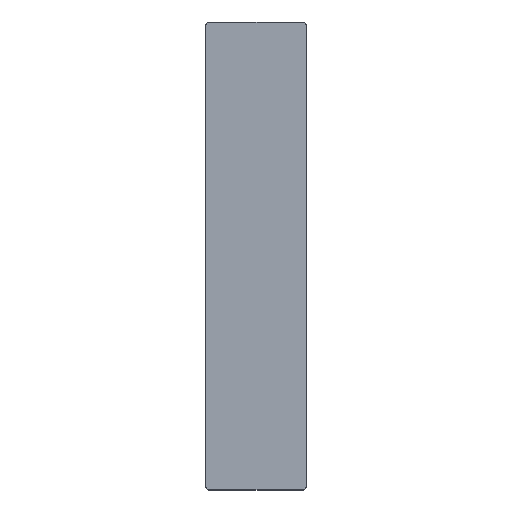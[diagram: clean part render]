
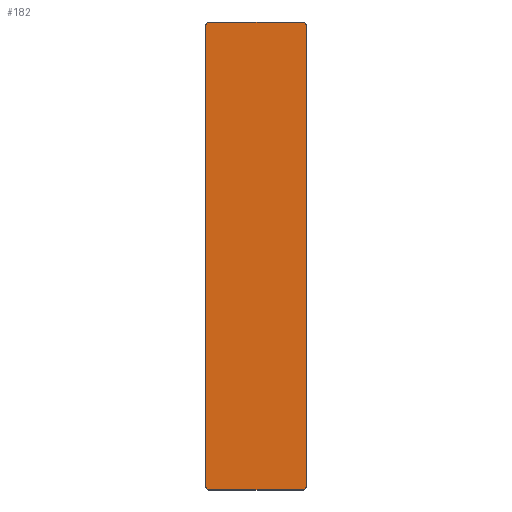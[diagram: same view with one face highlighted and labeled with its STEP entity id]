
A CAD part, top view. The second image highlights one B-rep face of the part: STEP entity #182.
In plain terms, the highlighted planar face has unit normal (0, 0, 1).
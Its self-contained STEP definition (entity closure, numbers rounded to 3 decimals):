
#15=CIRCLE('',#199,0.6);
#17=CIRCLE('',#203,0.6);
#19=CIRCLE('',#207,0.6);
#21=CIRCLE('',#211,0.6);
#36=FACE_OUTER_BOUND('',#46,.T.);
#46=EDGE_LOOP('',(#159,#160,#161,#162,#163,#164,#165,#166));
#48=LINE('',#275,#64);
#54=LINE('',#290,#70);
#58=LINE('',#302,#74);
#61=LINE('',#313,#77);
#64=VECTOR('',#220,1.);
#70=VECTOR('',#234,1.);
#74=VECTOR('',#246,1.);
#77=VECTOR('',#257,1.);
#80=VERTEX_POINT('',#272);
#81=VERTEX_POINT('',#274);
#84=VERTEX_POINT('',#281);
#86=VERTEX_POINT('',#288);
#88=VERTEX_POINT('',#293);
#90=VERTEX_POINT('',#300);
#92=VERTEX_POINT('',#305);
#94=VERTEX_POINT('',#311);
#96=EDGE_CURVE('',#80,#81,#48,.T.);
#100=EDGE_CURVE('',#84,#80,#15,.T.);
#104=EDGE_CURVE('',#84,#86,#54,.T.);
#106=EDGE_CURVE('',#88,#86,#17,.T.);
#110=EDGE_CURVE('',#88,#90,#58,.T.);
#112=EDGE_CURVE('',#92,#90,#19,.T.);
#115=EDGE_CURVE('',#94,#92,#61,.T.);
#117=EDGE_CURVE('',#81,#94,#21,.T.);
#159=ORIENTED_EDGE('',*,*,#96,.F.);
#160=ORIENTED_EDGE('',*,*,#100,.F.);
#161=ORIENTED_EDGE('',*,*,#104,.T.);
#162=ORIENTED_EDGE('',*,*,#106,.F.);
#163=ORIENTED_EDGE('',*,*,#110,.T.);
#164=ORIENTED_EDGE('',*,*,#112,.F.);
#165=ORIENTED_EDGE('',*,*,#115,.F.);
#166=ORIENTED_EDGE('',*,*,#117,.F.);
#172=PLANE('',#214);
#182=ADVANCED_FACE('',(#36),#172,.T.);
#199=AXIS2_PLACEMENT_3D('',#283,#226,#227);
#203=AXIS2_PLACEMENT_3D('',#295,#238,#239);
#207=AXIS2_PLACEMENT_3D('',#307,#250,#251);
#211=AXIS2_PLACEMENT_3D('',#316,#261,#262);
#214=AXIS2_PLACEMENT_3D('',#319,#267,#268);
#220=DIRECTION('',(0.,1.,0.));
#226=DIRECTION('center_axis',(0.,0.,-1.));
#227=DIRECTION('ref_axis',(-1.,0.,0.));
#234=DIRECTION('',(1.,0.,0.));
#238=DIRECTION('center_axis',(0.,0.,-1.));
#239=DIRECTION('ref_axis',(-1.,0.,0.));
#246=DIRECTION('',(0.,1.,0.));
#250=DIRECTION('center_axis',(0.,0.,-1.));
#251=DIRECTION('ref_axis',(-1.,0.,0.));
#257=DIRECTION('',(1.,0.,0.));
#261=DIRECTION('center_axis',(0.,0.,-1.));
#262=DIRECTION('ref_axis',(-1.,0.,0.));
#267=DIRECTION('center_axis',(0.,0.,1.));
#268=DIRECTION('ref_axis',(1.,0.,0.));
#272=CARTESIAN_POINT('',(-10.2,-33.6,-21.78));
#274=CARTESIAN_POINT('',(-10.2,60.6,-21.78));
#275=CARTESIAN_POINT('',(-10.2,13.5,-21.78));
#281=CARTESIAN_POINT('',(-9.6,-34.2,-21.78));
#283=CARTESIAN_POINT('Origin',(-9.6,-33.6,-21.78));
#288=CARTESIAN_POINT('',(9.6,-34.2,-21.78));
#290=CARTESIAN_POINT('',(0.,-34.2,-21.78));
#293=CARTESIAN_POINT('',(10.2,-33.6,-21.78));
#295=CARTESIAN_POINT('Origin',(9.6,-33.6,-21.78));
#300=CARTESIAN_POINT('',(10.2,60.6,-21.78));
#302=CARTESIAN_POINT('',(10.2,13.5,-21.78));
#305=CARTESIAN_POINT('',(9.6,61.2,-21.78));
#307=CARTESIAN_POINT('Origin',(9.6,60.6,-21.78));
#311=CARTESIAN_POINT('',(-9.6,61.2,-21.78));
#313=CARTESIAN_POINT('',(0.,61.2,-21.78));
#316=CARTESIAN_POINT('Origin',(-9.6,60.6,-21.78));
#319=CARTESIAN_POINT('Origin',(0.,13.5,-21.78));
